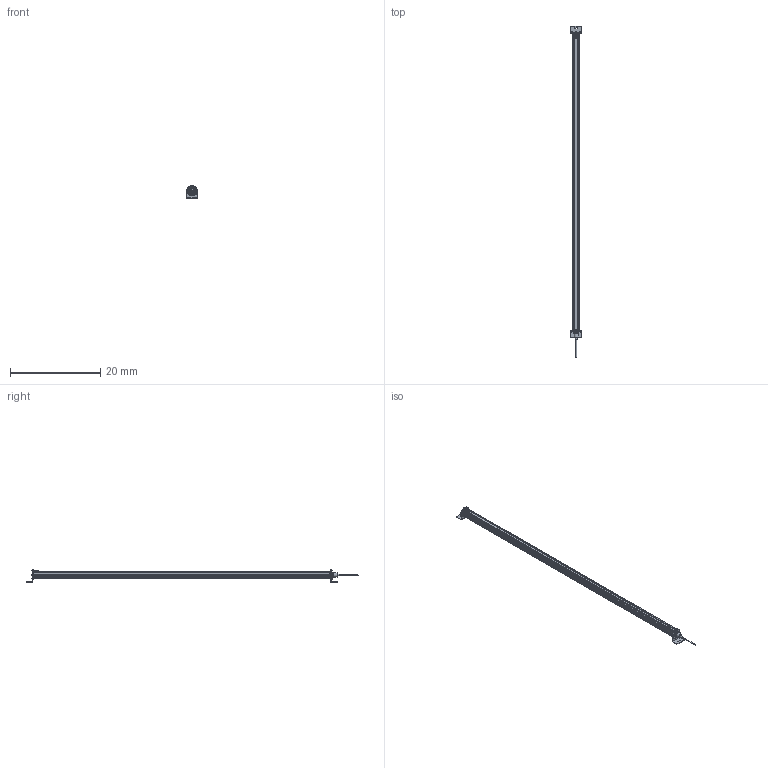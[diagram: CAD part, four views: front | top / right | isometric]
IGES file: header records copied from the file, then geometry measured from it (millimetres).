
Start section:  Autodesk DirectConnect version 7.0.27.0 ---- IGES version 5.3
Global section: file name: C:\ACADFILES\MG_PYLONS\CUSTOMER_FILES\MG-64-PYLON_3D_SMB.iges; native system: Autodesk DirectConnect 7.0.27.0; preprocessor: 7.0.27.0; author: ENGINEERMAIN; organization: Unknown; date: 20150810.143109; units: millimetre
Bounding box: 2.26 x 73.44 x 2.75 mm (x, y, z)
Surface area: 1019.1 mm2 (no closed solid volume)
Topology: 0 solids, 0 shells, 771 faces, 3970 edges, 3969 vertices
Faces by surface type: bspline 771
